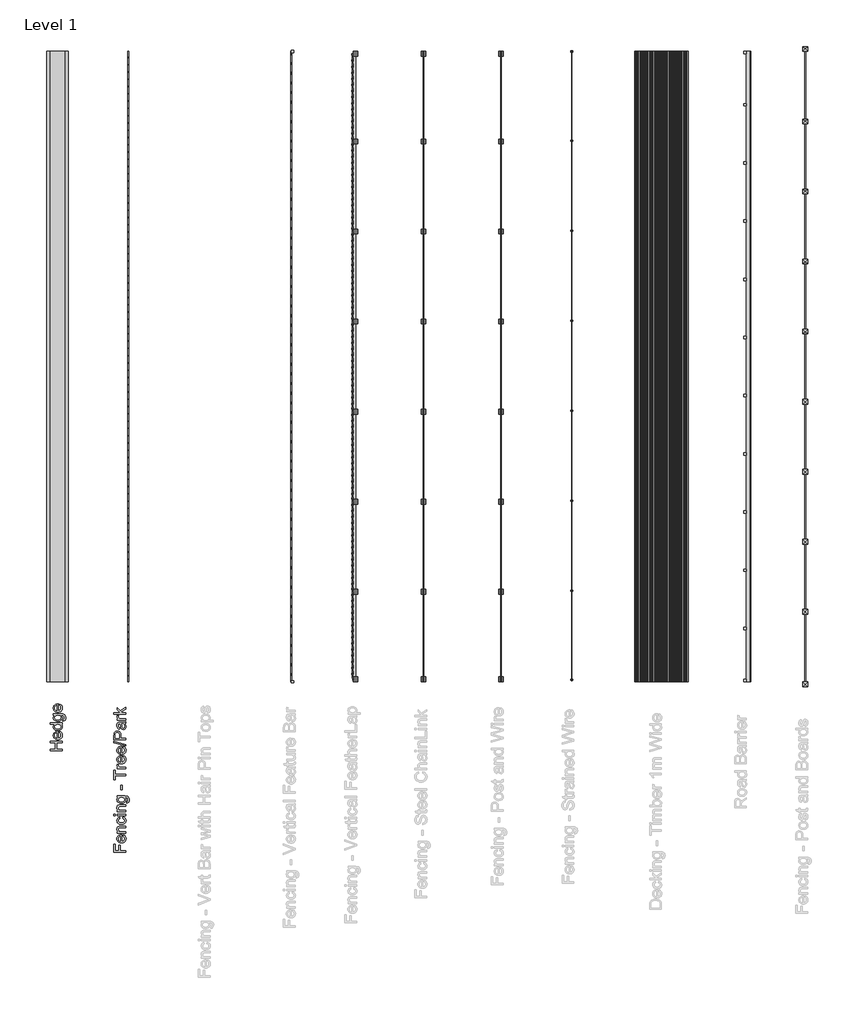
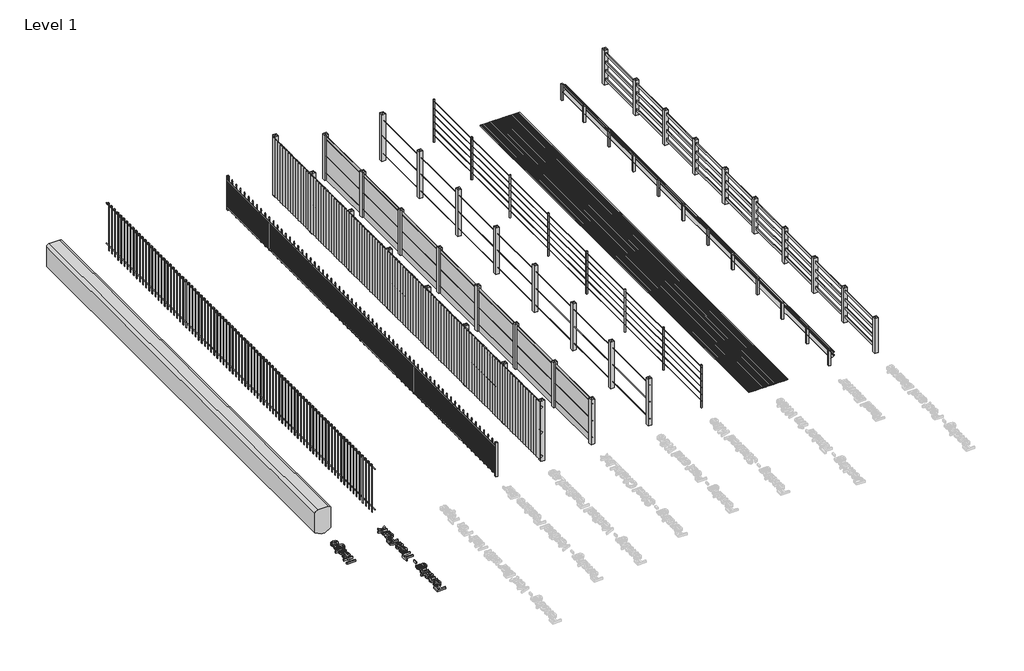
# One storey, part 1 of 7: 10 railings, 2 proxies.
"""IFC4 building model written with IfcOpenShell, lengths in millimetres."""

from ifc_helpers import new_model, si_unit, origin, origin_with_axes, place, context, project, spatial, polyline, outline, extrude, transform, mapped, element, save
from components import railing_f8a64039, railing_27fb722e, decking_timber_1m_wide_9c9b48e4, fencing_post_and_boards_368ce008, fencing_post_and_wire_d1ec848e, fencing_steel_chainlink_847a34bb, fencing_tree_park_c87fcb7d, fencing_tree_park_f3490889, fencing_vertical_featherlap_329c7854, fencing_vertical_feature_bar_1ee3314e, fencing_vertical_feature_bar_773a242a, fencing_vertical_feature_bar_09844041, road_barrier_216ef637

model = new_model("IFC4")

# Units and contexts
model_context = context("Model", 3, world=origin())
ifc_project = project(units=[si_unit("LENGTHUNIT", "METRE", prefix="MILLI")], contexts=[model_context])

# Site, building, storey
site = spatial("IfcSite", under=ifc_project)
building = spatial("IfcBuilding", under=site)
storey = spatial("IfcBuildingStorey", under=building, Name="Level 1", Elevation=0.0)

# Proxies
placement = place(None, origin())
element("IfcBuildingElementProxy", 1, Name="250mm Arial", ObjectType="250mm Arial", at=placement, inside=storey, context=model_context, shape_type="SweptSolid", body=[
    extrude(outline(polyline([(42761.0209585, -59995.6760246), (42514.8671123, -59995.6760246), (42514.8671123, -59830.2914092), (42545.6363431, -59830.2914092), (42545.6363431, -59964.9067938), (42618.7132662, -59964.9067938), (42618.7132662, -59849.5221784), (42649.4824969, -59849.5221784), (42649.4824969, -59964.9067938), (42761.0209585, -59964.9067938), (42761.0209585, -59995.6760246)])), origin_with_axes(), (0.0, 0.0, 1.0), 50.8),
    extrude(outline(polyline([(42707.1748046, -59665.2673707), (42711.0209585, -59635.0991015), (42733.7523287, -59645.9689933), (42750.7445162, -59663.3142457), (42761.3364633, -59686.7442337), (42764.8671123, -59715.8683322), (42763.3440504, -59734.9601291), (42758.7748647, -59751.9710967), (42751.1595552, -59766.9012349), (42740.4981219, -59779.7505438), (42727.0872896, -59790.0833262), (42711.223783, -59797.4638851), (42692.9076021, -59801.8922205), (42672.1387469, -59803.3683322), (42650.66564, -59801.8771964), (42631.7391075, -59797.403789), (42615.3591496, -59789.9481099), (42601.5257662, -59779.5101592), (42590.535682, -59766.6946544), (42582.6856219, -59752.106313), (42577.9755859, -59735.7451351), (42576.4055739, -59717.6111207), (42577.9718299, -59700.0611658), (42582.6705979, -59684.1901471), (42590.5018779, -59669.9980648), (42601.46567, -59657.4849188), (42615.2690053, -59647.2704506), (42631.6189152, -59639.974402), (42650.5153996, -59635.5967728), (42671.9584585, -59634.137563), (42680.2517277, -59634.3178515), (42680.2517277, -59772.5991015), (42703.2835787, -59767.2730798), (42720.21567, -59754.9007842), (42730.6273287, -59737.0447145), (42734.0978816, -59715.2673707), (42732.4903094, -59698.8911688), (42727.6675931, -59685.0991015), (42719.3292517, -59673.8911688), (42707.1748046, -59665.2673707)]), holes=[polyline([(42649.4824969, -59772.5991015), (42649.4824969, -59664.9067938), (42633.2264873, -59669.0684524), (42621.5978816, -59677.2265053), (42610.7805739, -59695.1652072), (42607.1748046, -59717.731313), (42610.051908, -59738.4719981), (42618.6832181, -59755.621938), (42632.1372445, -59767.5435125), (42649.4824969, -59772.5991015)])]), origin_with_axes(), (0.0, 0.0, 1.0), 50.8),
    extrude(outline(polyline([(42761.0209585, -59603.3683322), (42580.2517277, -59603.3683322), (42580.2517277, -59572.5991015), (42605.4921123, -59572.5991015), (42592.7667517, -59561.9094981), (42583.6772085, -59549.0714572), (42578.2234825, -59534.0849789), (42576.4055739, -59516.950063), (42582.2649489, -59487.8935726), (42589.0407902, -59476.310039), (42597.6495642, -59468.0618419), (42620.2757662, -59458.8370822), (42650.0233623, -59457.2144861), (42761.0209585, -59457.2144861), (42761.0209585, -59487.9837169), (42654.1699969, -59487.9837169), (42626.9464392, -59491.5293899), (42618.8409705, -59496.4347385), (42612.5534104, -59504.059438), (42607.1748046, -59525.1832361), (42610.1946364, -59543.2045702), (42619.2541316, -59558.5666496), (42636.7571364, -59569.0909885), (42665.1074969, -59572.5991015), (42761.0209585, -59572.5991015), (42761.0209585, -59603.3683322)])), origin_with_axes(), (0.0, 0.0, 1.0), 50.8),
    extrude(outline(polyline([(42695.6363431, -59299.5221784), (42699.4824969, -59268.7529476), (42726.848783, -59277.3316736), (42747.5293719, -59293.4524669), (42760.5326772, -59315.5978996), (42764.8671123, -59342.2505438), (42763.3553185, -59359.50753), (42758.8199368, -59374.9804116), (42751.2609675, -59388.6691886), (42740.6784104, -59400.5738611), (42727.2713341, -59410.2099038), (42711.238807, -59417.0927914), (42671.2974008, -59422.5991015), (42643.9160907, -59420.2478395), (42620.1856219, -59413.1940534), (42601.0224609, -59401.325063), (42587.3430739, -59384.528188), (42579.1399489, -59364.4335366), (42576.4055739, -59342.6712169), (42580.1615835, -59316.6721183), (42591.4296123, -59295.8863611), (42609.6086989, -59280.9750029), (42634.0978816, -59272.5991015), (42637.9440354, -59303.3683322), (42624.520057, -59308.9497625), (42614.8971604, -59317.6411688), (42609.1053936, -59328.9617818), (42607.1748046, -59342.4308322), (42610.9758864, -59362.3151471), (42622.3791316, -59378.0978996), (42642.0005258, -59388.3968779), (42670.4560546, -59391.8298707), (42699.2946965, -59388.4719981), (42718.9836989, -59378.3983803), (42730.3193359, -59362.9010846), (42734.0978816, -59343.2721784), (42731.7391075, -59327.3391856), (42724.6627854, -59314.2757842), (42712.6886267, -59304.7730798), (42695.6363431, -59299.5221784)])), origin_with_axes(), (0.0, 0.0, 1.0), 50.8),
    extrude(outline(polyline([(42545.6363431, -59241.8298707), (42514.8671123, -59241.8298707), (42514.8671123, -59211.0606399), (42545.6363431, -59211.0606399), (42545.6363431, -59241.8298707)])), origin_with_axes(), (0.0, 0.0, 1.0), 50.8),
    extrude(outline(polyline([(42761.0209585, -59241.8298707), (42580.2517277, -59241.8298707), (42580.2517277, -59211.0606399), (42761.0209585, -59211.0606399), (42761.0209585, -59241.8298707)])), origin_with_axes(), (0.0, 0.0, 1.0), 50.8),
    extrude(outline(polyline([(42761.0209585, -59164.9067938), (42580.2517277, -59164.9067938), (42580.2517277, -59134.137563), (42605.4921123, -59134.137563), (42592.7667517, -59123.4479596), (42583.6772085, -59110.6099188), (42578.2234825, -59095.6234404), (42576.4055739, -59078.4885246), (42582.2649489, -59049.4320342), (42589.0407902, -59037.8485005), (42597.6495642, -59029.6003034), (42620.2757662, -59020.3755438), (42650.0233623, -59018.7529476), (42761.0209585, -59018.7529476), (42761.0209585, -59049.5221784), (42654.1699969, -59049.5221784), (42626.9464392, -59053.0678515), (42618.8409705, -59057.9732), (42612.5534104, -59065.5978996), (42607.1748046, -59086.7216976), (42610.1946364, -59104.7430318), (42619.2541316, -59120.1051111), (42636.7571364, -59130.62945), (42665.1074969, -59134.137563), (42761.0209585, -59134.137563), (42761.0209585, -59164.9067938)])), origin_with_axes(), (0.0, 0.0, 1.0), 50.8),
    extrude(outline(polyline([(42776.4055739, -58984.137563), (42780.2517277, -58953.3683322), (42789.8671123, -58949.9728996), (42796.4776892, -58943.3923707), (42801.6159104, -58930.4566736), (42803.3286508, -58913.5245822), (42801.3905498, -58895.465688), (42795.5762469, -58882.0341976), (42786.2613431, -58872.7192938), (42773.8214392, -58867.0101592), (42737.9440354, -58864.9067938), (42755.2517277, -58886.5714572), (42761.0209585, -58912.9837169), (42759.3420222, -58929.853834), (42754.3052133, -58944.7069741), (42745.9105318, -58957.5431369), (42734.1579777, -58968.3623226), (42704.6207181, -58983.0783683), (42669.7349008, -58987.9837169), (42644.8926532, -58985.7826952), (42622.0486027, -58979.1796303), (42602.6901291, -58968.4073947), (42588.3046123, -58953.6988611), (42579.3803335, -58935.5573346), (42576.4055739, -58914.4861207), (42578.0882662, -58900.0968479), (42583.1363431, -58887.0372024), (42591.5498046, -58875.3071844), (42603.3286508, -58864.9067938), (42580.2517277, -58864.9067938), (42580.2517277, -58834.137563), (42736.3214392, -58834.137563), (42772.3565955, -58836.2409284), (42796.0870642, -58842.5510246), (42811.8247445, -58853.4209164), (42823.8815354, -58869.2036688), (42831.543795, -58889.5537289), (42834.0978816, -58914.1255438), (42830.4996243, -58942.7538491), (42819.7048527, -58965.2974188), (42801.6835186, -58979.7580558), (42776.4055739, -58984.137563)]), holes=[polyline([(42667.6315354, -58957.2144861), (42695.8541916, -58953.9317337), (42715.2577373, -58944.0834765), (42726.5032301, -58929.2772866), (42730.2517277, -58911.1207361), (42726.5257662, -58893.099402), (42715.3478816, -58878.2180919), (42696.1922325, -58868.2346183), (42668.5329777, -58864.9067938), (42641.8577974, -58868.3322746), (42622.6495642, -58878.6087169), (42611.0434945, -58893.7078755), (42607.1748046, -58911.6015053), (42610.9833984, -58929.1721183), (42622.4091796, -58943.903188), (42641.3319561, -58953.8866616), (42667.6315354, -58957.2144861)])]), origin_with_axes(), (0.0, 0.0, 1.0), 50.8),
    extrude(outline(polyline([(42687.9440354, -58707.2144861), (42657.1748046, -58707.2144861), (42657.1748046, -58611.0606399), (42687.9440354, -58611.0606399), (42687.9440354, -58707.2144861)])), origin_with_axes(), (0.0, 0.0, 1.0), 50.8),
    extrude(outline(polyline([(42761.0209585, -58414.9067938), (42545.6363431, -58414.9067938), (42545.6363431, -58495.6760246), (42514.8671123, -58495.6760246), (42514.8671123, -58303.3683322), (42545.6363431, -58303.3683322), (42545.6363431, -58384.137563), (42761.0209585, -58384.137563), (42761.0209585, -58414.9067938)])), origin_with_axes(), (0.0, 0.0, 1.0), 50.8),
    extrude(outline(polyline([(42761.0209585, -58272.5991015), (42580.2517277, -58272.5991015), (42580.2517277, -58245.6760246), (42606.9945162, -58245.6760246), (42591.4897085, -58235.7301111), (42582.3550931, -58226.5654476), (42576.4055739, -58207.3346784), (42578.7793719, -58192.0101592), (42585.9007662, -58176.4452553), (42613.4849008, -58186.7216976), (42607.1748046, -58208.356313), (42608.6922325, -58217.5435125), (42613.2445162, -58225.7541496), (42630.0714392, -58236.8418899), (42666.0089392, -58241.8298707), (42761.0209585, -58241.8298707), (42761.0209585, -58272.5991015)])), origin_with_axes(), (0.0, 0.0, 1.0), 50.8),
    extrude(outline(polyline([(42707.1748046, -58030.6519861), (42711.0209585, -58000.4837169), (42733.7523287, -58011.3536087), (42750.7445162, -58028.6988611), (42761.3364633, -58052.1288491), (42764.8671123, -58081.2529476), (42763.3440504, -58100.3447445), (42758.7748647, -58117.3557121), (42751.1595552, -58132.2858503), (42740.4981219, -58145.1351592), (42727.0872896, -58155.4679416), (42711.223783, -58162.8485005), (42692.9076021, -58167.2768359), (42672.1387469, -58168.7529476), (42650.66564, -58167.2618118), (42631.7391075, -58162.7884044), (42615.3591496, -58155.3327253), (42601.5257662, -58144.8947746), (42590.535682, -58132.0792697), (42582.6856219, -58117.4909284), (42577.9755859, -58101.1297505), (42576.4055739, -58082.9957361), (42577.9718299, -58065.4457812), (42582.6705979, -58049.5747625), (42590.5018779, -58035.3826802), (42601.46567, -58022.8695342), (42615.2690053, -58012.655066), (42631.6189152, -58005.3590173), (42650.5153996, -58000.9813881), (42671.9584585, -57999.5221784), (42680.2517277, -57999.7024669), (42680.2517277, -58137.9837169), (42703.2835787, -58132.6576952), (42720.21567, -58120.2853996), (42730.6273287, -58102.4293298), (42734.0978816, -58080.6519861), (42732.4903094, -58064.2757842), (42727.6675931, -58050.4837169), (42719.3292517, -58039.2757842), (42707.1748046, -58030.6519861)]), holes=[polyline([(42649.4824969, -58137.9837169), (42649.4824969, -58030.2914092), (42633.2264873, -58034.4530678), (42621.5978816, -58042.6111207), (42610.7805739, -58060.5498226), (42607.1748046, -58083.1159284), (42610.051908, -58103.8566135), (42618.6832181, -58121.0065534), (42632.1372445, -58132.9281279), (42649.4824969, -58137.9837169)])]), origin_with_axes(), (0.0, 0.0, 1.0), 50.8),
    extrude(outline(polyline([(42707.1748046, -57842.1904476), (42711.0209585, -57812.0221784), (42733.7523287, -57822.8920702), (42750.7445162, -57840.2373226), (42761.3364633, -57863.6673106), (42764.8671123, -57892.7914092), (42763.3440504, -57911.883206), (42758.7748647, -57928.8941736), (42751.1595552, -57943.8243118), (42740.4981219, -57956.6736207), (42727.0872896, -57967.0064032), (42711.223783, -57974.3869621), (42692.9076021, -57978.8152974), (42672.1387469, -57980.2914092), (42650.66564, -57978.8002734), (42631.7391075, -57974.3268659), (42615.3591496, -57966.8711868), (42601.5257662, -57956.4332361), (42590.535682, -57943.6177313), (42582.6856219, -57929.0293899), (42577.9755859, -57912.6682121), (42576.4055739, -57894.5341976), (42577.9718299, -57876.9842427), (42582.6705979, -57861.1132241), (42590.5018779, -57846.9211417), (42601.46567, -57834.4079957), (42615.2690053, -57824.1935276), (42631.6189152, -57816.8974789), (42650.5153996, -57812.5198497), (42671.9584585, -57811.0606399), (42680.2517277, -57811.2409284), (42680.2517277, -57949.5221784), (42703.2835787, -57944.1961568), (42720.21567, -57931.8238611), (42730.6273287, -57913.9677914), (42734.0978816, -57892.1904476), (42732.4903094, -57875.8142457), (42727.6675931, -57862.0221784), (42719.3292517, -57850.8142457), (42707.1748046, -57842.1904476)]), holes=[polyline([(42649.4824969, -57949.5221784), (42649.4824969, -57841.8298707), (42633.2264873, -57845.9915294), (42621.5978816, -57854.1495822), (42610.7805739, -57872.0882842), (42607.1748046, -57894.6543899), (42610.051908, -57915.395075), (42618.6832181, -57932.5450149), (42632.1372445, -57944.4665895), (42649.4824969, -57949.5221784)])]), origin_with_axes(), (0.0, 0.0, 1.0), 50.8),
    extrude(outline(polyline([(42761.0209585, -57803.3683322), (42514.8671123, -57734.137563), (42514.8671123, -57706.3731399), (42761.0209585, -57775.6039092), (42761.0209585, -57803.3683322)])), origin_with_axes(), (0.0, 0.0, 1.0), 50.8),
    extrude(outline(polyline([(42761.0209585, -57680.2914092), (42514.8671123, -57680.2914092), (42514.8671123, -57589.0654476), (42517.2108623, -57552.2866015), (42521.5903695, -57535.8878635), (42528.7192758, -57522.3887649), (42538.9205979, -57511.5188731), (42552.5173527, -57503.0077553), (42568.5555138, -57497.5089572), (42586.0810546, -57495.6760246), (42615.0924729, -57500.6264452), (42639.2661508, -57515.4777072), (42648.7838791, -57527.3711117), (42655.5822566, -57543.2496423), (42659.661283, -57563.1132992), (42661.0209585, -57586.9620822), (42661.0209585, -57649.5221784), (42761.0209585, -57649.5221784), (42761.0209585, -57680.2914092)]), holes=[polyline([(42630.2517277, -57649.5221784), (42630.2517277, -57585.1591976), (42627.4272085, -57557.8755438), (42618.9536508, -57539.8466976), (42605.356896, -57529.7956159), (42587.1627854, -57526.4452553), (42573.34067, -57528.4209164), (42561.6820162, -57534.3478996), (42552.9079777, -57543.490027), (42547.7397085, -57555.1111207), (42545.6363431, -57585.8803515), (42545.6363431, -57649.5221784), (42630.2517277, -57649.5221784)])]), origin_with_axes(), (0.0, 0.0, 1.0), 50.8),
    extrude(outline(polyline([(42737.9440354, -57341.8298707), (42750.5492037, -57356.5308923), (42758.7974008, -57371.6676111), (42763.3496844, -57387.5855798), (42764.8671123, -57404.6303515), (42761.216271, -57430.3439933), (42750.2637469, -57449.3118419), (42733.6321364, -57461.0080558), (42712.9440354, -57464.9067938), (42688.6050931, -57459.0173707), (42670.9368239, -57443.5426111), (42660.84067, -57421.9981399), (42656.2132662, -57395.3755438), (42645.6363431, -57342.0101592), (42638.7853816, -57341.8298707), (42625.0534104, -57343.9482601), (42616.0690354, -57350.3034284), (42609.3983623, -57364.5161688), (42607.1748046, -57384.3178515), (42608.6546724, -57402.6471784), (42613.0942758, -57415.4476592), (42621.3049128, -57424.1766255), (42634.0978816, -57430.2914092), (42630.2517277, -57461.0606399), (42613.4248046, -57455.7195943), (42600.2036508, -57447.7493419), (42590.0924729, -57436.4061928), (42582.5954777, -57420.9464572), (42577.9530498, -57402.0387048), (42576.4055739, -57380.3515053), (42577.7727614, -57359.5507241), (42581.8743239, -57343.0618419), (42588.0416916, -57330.62945), (42595.606295, -57321.9981399), (42616.4897085, -57312.5630438), (42643.4127854, -57311.0606399), (42681.6940354, -57311.0606399), (42735.1495642, -57309.4981399), (42761.0209585, -57303.3683322), (42761.0209585, -57334.137563), (42737.9440354, -57341.8298707)]), holes=[polyline([(42676.4055739, -57341.8298707), (42685.84067, -57391.4692938), (42690.8286508, -57417.9416496), (42698.9416316, -57429.9308322), (42710.7805739, -57434.137563), (42719.9302133, -57431.8463971), (42727.4272085, -57424.9728996), (42732.4302133, -57413.6673106), (42734.0978816, -57398.0798707), (42732.2574368, -57381.5534284), (42726.7361027, -57366.950063), (42718.6005859, -57355.1111207), (42708.9175931, -57346.8779476), (42685.1195162, -57342.0101592), (42676.4055739, -57341.8298707)])]), origin_with_axes(), (0.0, 0.0, 1.0), 50.8),
    extrude(outline(polyline([(42761.0209585, -57268.7529476), (42580.2517277, -57268.7529476), (42580.2517277, -57241.8298707), (42606.9945162, -57241.8298707), (42591.4897085, -57231.8839572), (42582.3550931, -57222.7192938), (42576.4055739, -57203.4885246), (42578.7793719, -57188.1640053), (42585.9007662, -57172.5991015), (42613.4849008, -57182.8755438), (42607.1748046, -57204.5101592), (42608.6922325, -57213.6973587), (42613.2445162, -57221.9079957), (42630.0714392, -57232.9957361), (42666.0089392, -57237.9837169), (42761.0209585, -57237.9837169), (42761.0209585, -57268.7529476)])), origin_with_axes(), (0.0, 0.0, 1.0), 50.8),
    extrude(outline(polyline([(42761.0209585, -57153.3683322), (42514.8671123, -57153.3683322), (42514.8671123, -57122.5991015), (42647.1387469, -57122.5991015), (42580.2517277, -57053.6087169), (42580.2517277, -57011.0606399), (42647.9800931, -57080.8923707), (42761.0209585, -57007.2144861), (42761.0209585, -57043.1519861), (42669.3743239, -57102.9476592), (42688.4248046, -57122.5991015), (42761.0209585, -57122.5991015), (42761.0209585, -57153.3683322)])), origin_with_axes(), (0.0, 0.0, 1.0), 50.8),
])
element("IfcBuildingElementProxy", 2, Name="250mm Arial", ObjectType="250mm Arial", at=placement, inside=storey, context=model_context, shape_type="SweptSolid", body=[
    extrude(outline(polyline([(41449.4614505, -57903.11825), (41203.3076043, -57903.11825), (41203.3076043, -57872.3490193), (41303.3076043, -57872.3490193), (41303.3076043, -57741.5797885), (41203.3076043, -57741.5797885), (41203.3076043, -57710.8105577), (41449.4614505, -57710.8105577), (41449.4614505, -57741.5797885), (41334.0768351, -57741.5797885), (41334.0768351, -57872.3490193), (41449.4614505, -57872.3490193), (41449.4614505, -57903.11825)])), origin_with_axes(), (0.0, 0.0, 1.0), 50.8),
    extrude(outline(polyline([(41395.6152966, -57534.2480577), (41399.4614505, -57504.0797885), (41422.1928207, -57514.9496803), (41439.1850082, -57532.2949327), (41449.7769553, -57555.7249207), (41453.3076043, -57584.8490193), (41451.7845424, -57603.9408161), (41447.2153567, -57620.9517837), (41439.6000472, -57635.8819219), (41428.9386139, -57648.7312308), (41415.5277816, -57659.0640133), (41399.664275, -57666.4445722), (41381.3480941, -57670.8729075), (41360.5792389, -57672.3490193), (41339.106132, -57670.8578835), (41320.1795995, -57666.384476), (41303.7996416, -57658.9287969), (41289.9662582, -57648.4908462), (41278.976174, -57635.6753414), (41271.1261139, -57621.087), (41266.4160779, -57604.7258222), (41264.8460659, -57586.5918077), (41266.4123219, -57569.0418528), (41271.1110899, -57553.1708342), (41278.94237, -57538.9787518), (41289.906162, -57526.4656058), (41303.7094974, -57516.2511377), (41320.0594072, -57508.955089), (41338.9558916, -57504.5774598), (41360.3989505, -57503.11825), (41368.6922197, -57503.2985385), (41368.6922197, -57641.5797885), (41391.7240707, -57636.2537669), (41408.656162, -57623.8814712), (41419.0678207, -57606.0254015), (41422.5383736, -57584.2480577), (41420.9308014, -57567.8718558), (41416.1080851, -57554.0797885), (41407.7697437, -57542.8718558), (41395.6152966, -57534.2480577)]), holes=[polyline([(41337.9229889, -57641.5797885), (41337.9229889, -57533.8874808), (41321.6669793, -57538.0491395), (41310.0383736, -57546.2071923), (41299.2210659, -57564.1458943), (41295.6152966, -57586.712), (41298.4924, -57607.4526851), (41307.1237101, -57624.602625), (41320.5777365, -57636.5241996), (41337.9229889, -57641.5797885)])]), origin_with_axes(), (0.0, 0.0, 1.0), 50.8),
    extrude(outline(polyline([(41449.4614505, -57360.8105577), (41420.4350082, -57360.8105577), (41434.816769, -57370.0165373), (41445.0894553, -57381.1681298), (41451.2530671, -57394.2653354), (41453.3076043, -57409.3081539), (41450.3328447, -57429.1999808), (41441.4085659, -57447.4091154), (41427.1582654, -57462.8237789), (41408.2054409, -57474.3321923), (41385.3163183, -57481.4986587), (41359.2571236, -57483.8874808), (41333.5209457, -57481.6864592), (41310.2787582, -57475.0833943), (41290.8526764, -57464.0857981), (41276.5648159, -57448.7011827), (41267.7757534, -57430.0939111), (41264.8460659, -57409.4283462), (41266.9419192, -57394.3742597), (41273.2294793, -57381.0629616), (41282.8674, -57369.7799087), (41295.0143351, -57360.8105577), (41203.3076043, -57360.8105577), (41203.3076043, -57330.041327), (41449.4614505, -57330.041327), (41449.4614505, -57360.8105577)]), holes=[polyline([(41359.1369312, -57453.11825), (41386.9689625, -57449.6476972), (41406.7631332, -57439.2360385), (41418.5945635, -57424.1068318), (41422.5383736, -57406.4836347), (41418.7748519, -57388.8679496), (41407.484287, -57374.1218558), (41388.4563423, -57364.1383823), (41361.4806812, -57360.8105577), (41331.9884937, -57364.1984784), (41311.5407774, -57374.3622404), (41299.5966668, -57389.4839351), (41295.6152966, -57407.7456539), (41299.4389144, -57425.5491395), (41310.9097678, -57440.1374808), (41330.6137942, -57449.8730577), (41359.1369312, -57453.11825)])]), origin_with_axes(), (0.0, 0.0, 1.0), 50.8),
    extrude(outline(polyline([(41464.8460659, -57291.5797885), (41468.6922197, -57260.8105577), (41478.3076043, -57257.415125), (41484.9181812, -57250.8345962), (41490.0564024, -57237.8988991), (41491.7691428, -57220.9668077), (41489.8310418, -57202.9079135), (41484.0167389, -57189.4764231), (41474.7018351, -57180.1615193), (41462.2619312, -57174.4523847), (41426.3845274, -57172.3490193), (41443.6922197, -57194.0136827), (41449.4614505, -57220.4259423), (41447.7825142, -57237.2960595), (41442.7457053, -57252.1491996), (41434.3510238, -57264.9853624), (41422.5984697, -57275.8045481), (41393.0612101, -57290.5205938), (41358.1753928, -57295.4259423), (41333.3331452, -57293.2249207), (41310.4890947, -57286.6218558), (41291.1306212, -57275.8496202), (41276.7451043, -57261.1410866), (41267.8208255, -57242.9995601), (41264.8460659, -57221.9283462), (41266.5287582, -57207.5390734), (41271.5768351, -57194.4794279), (41279.9902966, -57182.7494099), (41291.7691428, -57172.3490193), (41268.6922197, -57172.3490193), (41268.6922197, -57141.5797885), (41424.7619312, -57141.5797885), (41460.7970875, -57143.6831539), (41484.5275562, -57149.99325), (41500.2652365, -57160.8631419), (41512.3220274, -57176.6458943), (41519.984287, -57196.9959544), (41522.5383736, -57221.5677693), (41518.9401163, -57250.1960746), (41508.1453447, -57272.7396443), (41490.1240106, -57287.2002813), (41464.8460659, -57291.5797885)]), holes=[polyline([(41356.0720274, -57264.6567116), (41384.2946837, -57261.3739592), (41403.6982293, -57251.525702), (41414.9437221, -57236.7195121), (41418.6922197, -57218.5629616), (41414.9662582, -57200.5416274), (41403.7883736, -57185.6603173), (41384.6327245, -57175.6768438), (41356.9734697, -57172.3490193), (41330.2982894, -57175.7745), (41311.0900562, -57186.0509423), (41299.4839865, -57201.150101), (41295.6152966, -57219.0437308), (41299.4238904, -57236.6143438), (41310.8496716, -57251.3454135), (41329.7724481, -57261.3288871), (41356.0720274, -57264.6567116)])]), origin_with_axes(), (0.0, 0.0, 1.0), 50.8),
    extrude(outline(polyline([(41395.6152966, -56968.8634423), (41399.4614505, -56938.6951731), (41422.1928207, -56949.5650649), (41439.1850082, -56966.9103173), (41449.7769553, -56990.3403053), (41453.3076043, -57019.4644039), (41451.7845424, -57038.5562008), (41447.2153567, -57055.5671683), (41439.6000472, -57070.4973065), (41428.9386139, -57083.3466154), (41415.5277816, -57093.6793979), (41399.664275, -57101.0599568), (41381.3480941, -57105.4882921), (41360.5792389, -57106.9644039), (41339.106132, -57105.4732681), (41320.1795995, -57100.9998606), (41303.7996416, -57093.5441815), (41289.9662582, -57083.1062308), (41278.976174, -57070.290726), (41271.1261139, -57055.7023847), (41266.4160779, -57039.3412068), (41264.8460659, -57021.2071923), (41266.4123219, -57003.6572374), (41271.1110899, -56987.7862188), (41278.94237, -56973.5941365), (41289.906162, -56961.0809904), (41303.7094974, -56950.8665223), (41320.0594072, -56943.5704736), (41338.9558916, -56939.1928444), (41360.3989505, -56937.7336347), (41368.6922197, -56937.9139231), (41368.6922197, -57076.1951731), (41391.7240707, -57070.8691515), (41408.656162, -57058.4968558), (41419.0678207, -57040.6407861), (41422.5383736, -57018.8634423), (41420.9308014, -57002.4872404), (41416.1080851, -56988.6951731), (41407.7697437, -56977.4872404), (41395.6152966, -56968.8634423)]), holes=[polyline([(41337.9229889, -57076.1951731), (41337.9229889, -56968.5028654), (41321.6669793, -56972.6645241), (41310.0383736, -56980.822577), (41299.2210659, -56998.7612789), (41295.6152966, -57021.3273847), (41298.4924, -57042.0680698), (41307.1237101, -57059.2180097), (41320.5777365, -57071.1395842), (41337.9229889, -57076.1951731)])]), origin_with_axes(), (0.0, 0.0, 1.0), 50.8),
])

# Railings
railing_shape = railing_f8a64039(model_context)
element("IfcRailing", 3, ObjectType="Hedge 750mm High", at=placement, inside=storey, context=model_context, shape_type="MappedRepresentation", body=[
    mapped(railing_shape, transform((0.0, 0.0, 0.0), x_axis=(1.0, 0.0, 0.0), y_axis=(0.0, 1.0, 0.0), z_axis=(0.0, 0.0, 1.0))),
])
railing_2_shape = railing_27fb722e(model_context)
element("IfcRailing", 4, ObjectType="Fencing - Strained Wire", at=placement, inside=storey, context=model_context, shape_type="MappedRepresentation", body=[
    mapped(railing_2_shape, transform((0.0, 0.0, 0.0), x_axis=(1.0, 0.0, 0.0), y_axis=(0.0, 1.0, 0.0), z_axis=(0.0, 0.0, 1.0))),
])
decking_timber_1m_wide_shape = decking_timber_1m_wide_9c9b48e4(model_context)
element("IfcRailing", 5, ObjectType="Decking - Timber 1m Wide", at=placement, inside=storey, context=model_context, shape_type="MappedRepresentation", body=[
    mapped(decking_timber_1m_wide_shape, transform((0.0, 0.0, 0.0), x_axis=(1.0, 0.0, 0.0), y_axis=(0.0, 1.0, 0.0), z_axis=(0.0, 0.0, 1.0))),
])
fencing_post_and_boards_shape = fencing_post_and_boards_368ce008(model_context)
element("IfcRailing", 6, ObjectType="Fencing - Post and Boards", at=placement, inside=storey, context=model_context, shape_type="MappedRepresentation", body=[
    mapped(fencing_post_and_boards_shape, transform((0.0, 0.0, 0.0), x_axis=(1.0, 0.0, 0.0), y_axis=(0.0, 1.0, 0.0), z_axis=(0.0, 0.0, 1.0))),
])
fencing_post_and_wire_shape = fencing_post_and_wire_d1ec848e(model_context)
element("IfcRailing", 7, ObjectType="Fencing - Post and Wire", at=placement, inside=storey, context=model_context, shape_type="MappedRepresentation", body=[
    mapped(fencing_post_and_wire_shape, transform((0.0, 0.0, 0.0), x_axis=(1.0, 0.0, 0.0), y_axis=(0.0, 1.0, 0.0), z_axis=(0.0, 0.0, 1.0))),
])
fencing_steel_chainlink_shape = fencing_steel_chainlink_847a34bb(model_context)
element("IfcRailing", 8, ObjectType="Fencing - Steel ChainLink", at=placement, inside=storey, context=model_context, shape_type="MappedRepresentation", body=[
    mapped(fencing_steel_chainlink_shape, transform((0.0, 0.0, 0.0), x_axis=(1.0, 0.0, 0.0), y_axis=(0.0, 1.0, 0.0), z_axis=(0.0, 0.0, 1.0))),
])
fencing_tree_park_shape = fencing_tree_park_c87fcb7d(model_context)
fencing_tree_park_2_shape = fencing_tree_park_f3490889(model_context)
element("IfcRailing", 9, ObjectType="Fencing - Tree/Park", at=placement, inside=storey, context=model_context, shape_type="MappedRepresentation", body=[
    mapped(fencing_tree_park_shape, transform((0.0, 0.0, 0.0), x_axis=(1.0, 0.0, 0.0), y_axis=(0.0, 1.0, 0.0), z_axis=(0.0, 0.0, 1.0))),
    mapped(fencing_tree_park_2_shape, transform((0.0, 0.0, 0.0), x_axis=(1.0, 0.0, 0.0), y_axis=(0.0, 1.0, 0.0), z_axis=(0.0, 0.0, 1.0))),
])
fencing_vertical_featherlap_shape = fencing_vertical_featherlap_329c7854(model_context)
element("IfcRailing", 10, ObjectType="Fencing - Vertical FeatherLap", at=placement, inside=storey, context=model_context, shape_type="MappedRepresentation", body=[
    mapped(fencing_vertical_featherlap_shape, transform((0.0, 0.0, 0.0), x_axis=(1.0, 0.0, 0.0), y_axis=(0.0, 1.0, 0.0), z_axis=(0.0, 0.0, 1.0))),
])
fencing_vertical_feature_bar_shape = fencing_vertical_feature_bar_1ee3314e(model_context)
fencing_vertical_feature_bar_2_shape = fencing_vertical_feature_bar_773a242a(model_context)
fencing_vertical_feature_bar_3_shape = fencing_vertical_feature_bar_09844041(model_context)
element("IfcRailing", 11, ObjectType="Fencing - Vertical Feature Bar", at=placement, inside=storey, context=model_context, shape_type="MappedRepresentation", body=[
    mapped(fencing_vertical_feature_bar_shape, transform((0.0, 0.0, 0.0), x_axis=(1.0, 0.0, 0.0), y_axis=(0.0, 1.0, 0.0), z_axis=(0.0, 0.0, 1.0))),
    mapped(fencing_vertical_feature_bar_2_shape, transform((0.0, 0.0, 0.0), x_axis=(1.0, 0.0, 0.0), y_axis=(0.0, 1.0, 0.0), z_axis=(0.0, 0.0, 1.0))),
    mapped(fencing_vertical_feature_bar_3_shape, transform((0.0, 0.0, 0.0), x_axis=(1.0, 0.0, 0.0), y_axis=(0.0, 1.0, 0.0), z_axis=(0.0, 0.0, 1.0))),
])
road_barrier_shape = road_barrier_216ef637(model_context)
element("IfcRailing", 12, ObjectType="Road Barrier", at=placement, inside=storey, context=model_context, shape_type="MappedRepresentation", body=[
    mapped(road_barrier_shape, transform((0.0, 0.0, 0.0), x_axis=(1.0, 0.0, 0.0), y_axis=(0.0, 1.0, 0.0), z_axis=(0.0, 0.0, 1.0))),
])

save(model, "model.ifc")
